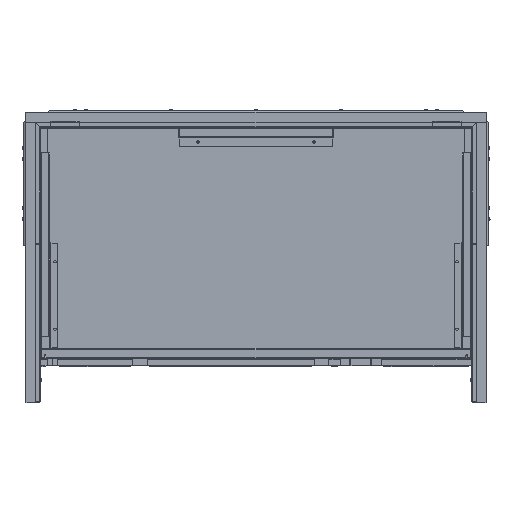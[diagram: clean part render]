
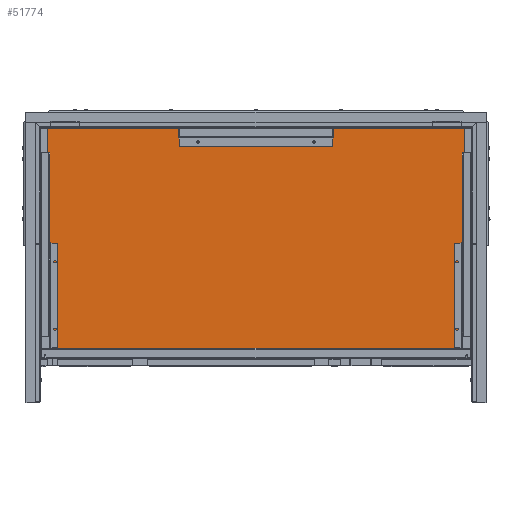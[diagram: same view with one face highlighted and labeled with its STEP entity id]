
A CAD part, front view. The second image highlights one B-rep face of the part: STEP entity #51774.
In plain terms, the highlighted planar face has unit normal (0, 1, 0.001).
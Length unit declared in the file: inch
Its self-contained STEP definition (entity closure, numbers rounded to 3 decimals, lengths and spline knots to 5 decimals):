
#2361 = CARTESIAN_POINT ( 'NONE',  ( 12.13654, 68.87815, 44.25 ) ) ;
#2931 = DIRECTION ( 'NONE',  ( 0., 0., -1. ) ) ;
#4469 = EDGE_LOOP ( 'NONE', ( #57638, #30548, #47653, #26004 ) ) ;
#4829 = AXIS2_PLACEMENT_3D ( 'NONE', #2361, #20344, #51485 ) ;
#5991 = CARTESIAN_POINT ( 'NONE',  ( -10.62908, 68.87815, 44.25 ) ) ;
#6126 = CARTESIAN_POINT ( 'NONE',  ( 12.05267, 68.87815, 0. ) ) ;
#7203 = CARTESIAN_POINT ( 'NONE',  ( 12.13654, 68.87815, 0. ) ) ;
#7321 = EDGE_CURVE ( 'NONE', #41145, #16948, #11138, .T. ) ;
#10637 = CARTESIAN_POINT ( 'NONE',  ( 12.05267, 68.87815, 44.25 ) ) ;
#11138 = LINE ( 'NONE', #19178, #21190 ) ;
#11329 = PLANE ( 'NONE',  #4829 ) ;
#11676 = DIRECTION ( 'NONE',  ( -1., 0., 0. ) ) ;
#15428 = LINE ( 'NONE', #7203, #41093 ) ;
#16948 = VERTEX_POINT ( 'NONE', #10637 ) ;
#18593 = DIRECTION ( 'NONE',  ( 1., 0., 0. ) ) ;
#19119 = CARTESIAN_POINT ( 'NONE',  ( -10.62908, 68.87815, 44.25 ) ) ;
#19178 = CARTESIAN_POINT ( 'NONE',  ( 12.13654, 68.87815, 44.25 ) ) ;
#20344 = DIRECTION ( 'NONE',  ( 0., 1., 0. ) ) ;
#21190 = VECTOR ( 'NONE', #18593, 39.37008 ) ;
#21402 = EDGE_CURVE ( 'NONE', #16948, #23788, #45992, .T. ) ;
#21435 = FACE_OUTER_BOUND ( 'NONE', #4469, .T. ) ;
#23788 = VERTEX_POINT ( 'NONE', #6126 ) ;
#26004 = ORIENTED_EDGE ( 'NONE', *, *, #7321, .T. ) ;
#29038 = EDGE_CURVE ( 'NONE', #23788, #39809, #15428, .T. ) ;
#30548 = ORIENTED_EDGE ( 'NONE', *, *, #29038, .T. ) ;
#34186 = CARTESIAN_POINT ( 'NONE',  ( 12.05267, 68.87815, 44.25 ) ) ;
#39809 = VERTEX_POINT ( 'NONE', #50375 ) ;
#41093 = VECTOR ( 'NONE', #11676, 39.37008 ) ;
#41145 = VERTEX_POINT ( 'NONE', #5991 ) ;
#41788 = LINE ( 'NONE', #19119, #54905 ) ;
#42692 = EDGE_CURVE ( 'NONE', #39809, #41145, #41788, .T. ) ;
#45832 = DIRECTION ( 'NONE',  ( 0., 0., 1. ) ) ;
#45992 = LINE ( 'NONE', #34186, #46871 ) ;
#46871 = VECTOR ( 'NONE', #2931, 39.37008 ) ;
#47653 = ORIENTED_EDGE ( 'NONE', *, *, #42692, .T. ) ;
#50375 = CARTESIAN_POINT ( 'NONE',  ( -10.62908, 68.87815, 0. ) ) ;
#51485 = DIRECTION ( 'NONE',  ( 0., 0., 1. ) ) ;
#51774 = ADVANCED_FACE ( 'NONE', ( #21435 ), #11329, .T. ) ;
#54905 = VECTOR ( 'NONE', #45832, 39.37008 ) ;
#57638 = ORIENTED_EDGE ( 'NONE', *, *, #21402, .T. ) ;
